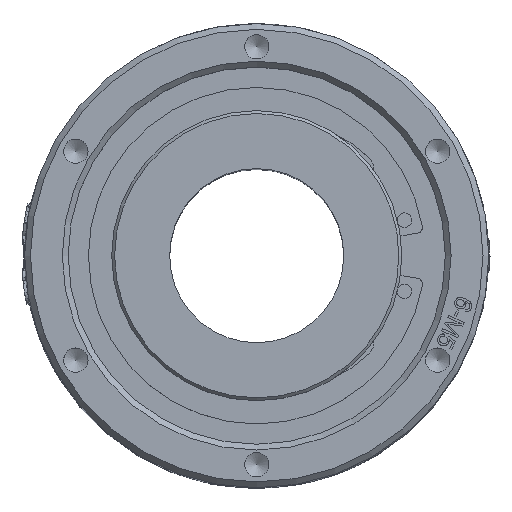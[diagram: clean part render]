
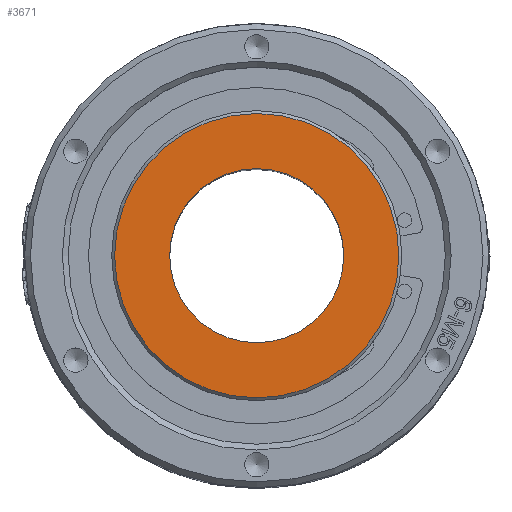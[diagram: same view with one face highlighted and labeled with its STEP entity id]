
A CAD part, top view. The second image highlights one B-rep face of the part: STEP entity #3671.
In plain terms, the highlighted planar face has unit normal (0, 0, 1).
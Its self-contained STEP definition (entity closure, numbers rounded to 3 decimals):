
#491=FACE_BOUND('',#6461,.T.);
#492=FACE_BOUND('',#6462,.T.);
#728=CIRCLE('',#21382,15.);
#747=CIRCLE('',#21406,24.5);
#3671=ADVANCED_FACE('',(#491,#492),#4344,.T.);
#4344=PLANE('',#21407);
#6461=EDGE_LOOP('',(#11064));
#6462=EDGE_LOOP('',(#11065));
#11064=ORIENTED_EDGE('',*,*,#17379,.T.);
#11065=ORIENTED_EDGE('',*,*,#17408,.T.);
#14567=VERTEX_POINT('',#39747);
#14593=VERTEX_POINT('',#39807);
#17379=EDGE_CURVE('',#14567,#14567,#728,.T.);
#17408=EDGE_CURVE('',#14593,#14593,#747,.T.);
#21382=AXIS2_PLACEMENT_3D('',#39746,#23824,#23825);
#21406=AXIS2_PLACEMENT_3D('',#39806,#23882,#23883);
#21407=AXIS2_PLACEMENT_3D('',#39808,#23884,#23885);
#23824=DIRECTION('',(0.,0.,-1.));
#23825=DIRECTION('',(1.,0.,0.));
#23882=DIRECTION('',(0.,0.,1.));
#23883=DIRECTION('',(1.,0.,0.));
#23884=DIRECTION('',(0.,0.,1.));
#23885=DIRECTION('',(1.,0.,0.));
#39746=CARTESIAN_POINT('',(0.,0.,88.5));
#39747=CARTESIAN_POINT('',(15.,0.,88.5));
#39806=CARTESIAN_POINT('',(0.,0.,88.5));
#39807=CARTESIAN_POINT('',(24.5,0.,88.5));
#39808=CARTESIAN_POINT('',(0.,0.,88.5));
